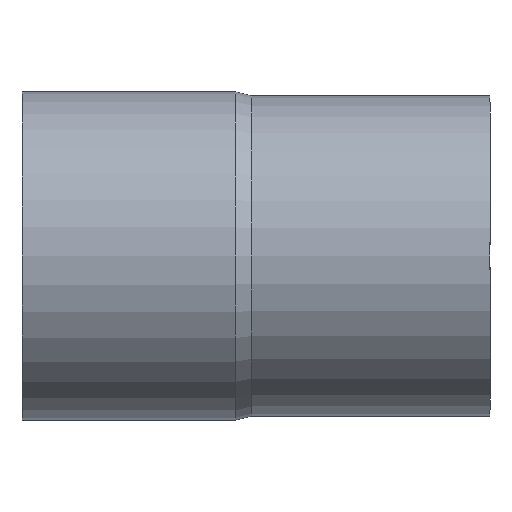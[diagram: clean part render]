
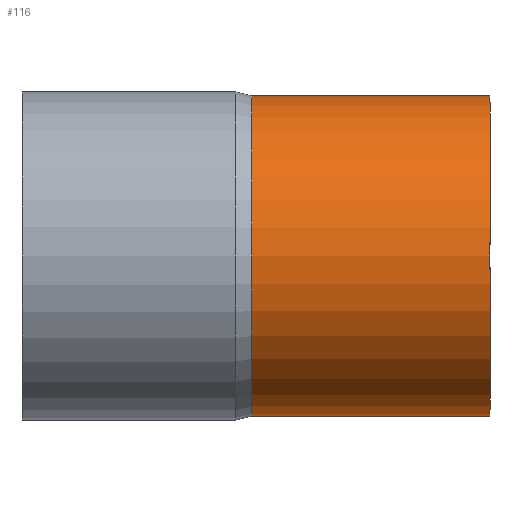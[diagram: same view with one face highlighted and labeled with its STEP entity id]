
A CAD part, front view. The second image highlights one B-rep face of the part: STEP entity #116.
In plain terms, the highlighted cylindrical face has radius 19.5 mm (diameter 39 mm), a full revolution.
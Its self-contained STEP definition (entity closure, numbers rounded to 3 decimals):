
#17=CYLINDRICAL_SURFACE('',#130,19.5);
#23=FACE_BOUND('',#45,.T.);
#33=FACE_OUTER_BOUND('',#44,.T.);
#44=EDGE_LOOP('',(#94));
#45=EDGE_LOOP('',(#95));
#62=CIRCLE('',#128,19.5);
#64=CIRCLE('',#131,19.5);
#72=VERTEX_POINT('',#191);
#74=VERTEX_POINT('',#196);
#82=EDGE_CURVE('',#72,#72,#62,.T.);
#84=EDGE_CURVE('',#74,#74,#64,.T.);
#94=ORIENTED_EDGE('',*,*,#82,.T.);
#95=ORIENTED_EDGE('',*,*,#84,.F.);
#116=ADVANCED_FACE('',(#33,#23),#17,.T.);
#128=AXIS2_PLACEMENT_3D('',#192,#151,#152);
#130=AXIS2_PLACEMENT_3D('',#195,#155,#156);
#131=AXIS2_PLACEMENT_3D('',#197,#157,#158);
#151=DIRECTION('center_axis',(-1.,0.,0.));
#152=DIRECTION('ref_axis',(0.,0.,1.));
#155=DIRECTION('center_axis',(-1.,0.,0.));
#156=DIRECTION('ref_axis',(0.,-1.,0.));
#157=DIRECTION('center_axis',(-1.,0.,0.));
#158=DIRECTION('ref_axis',(0.,0.,1.));
#191=CARTESIAN_POINT('',(28.5,-19.5,0.));
#192=CARTESIAN_POINT('Origin',(28.5,0.,0.));
#195=CARTESIAN_POINT('Origin',(14.,0.,0.));
#196=CARTESIAN_POINT('',(-0.5,-19.5,0.));
#197=CARTESIAN_POINT('Origin',(-0.5,0.,
0.));
